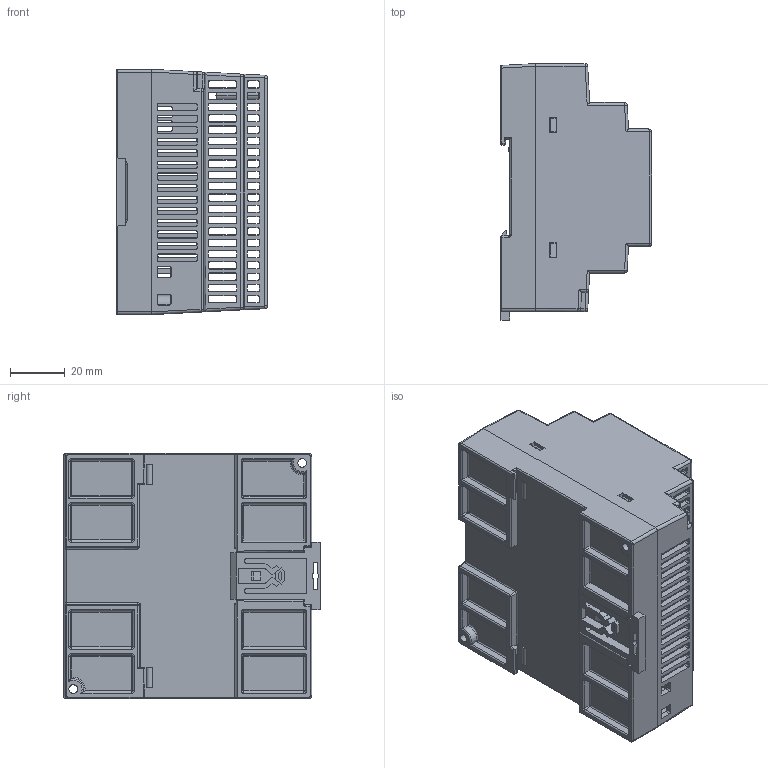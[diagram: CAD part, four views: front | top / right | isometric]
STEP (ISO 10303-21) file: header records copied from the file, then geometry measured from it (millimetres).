
FILE_DESCRIPTION((''),'2;1');
FILE_NAME('DRC-24V100W1AZ_ASM','2025-08-07T10:00:14',('EUNICE.HUANG'),(''),'CREO PARAMETRIC BY PTC INC, 2023294','CREO PARAMETRIC BY PTC INC, 2023294','');
FILE_SCHEMA(('CONFIG_CONTROL_DESIGN'));
Products named in the file (7): CHASSIS_4; COVER_3; 3421026502_4; LENS_2; LABEL_4; DRC-24V100W1AZ_ASM_4_ASM; DRC-24V100W1AZ_ASM
Assembly tree (6 placements, depth 3):
  DRC-24V100W1AZ_ASM
    DRC-24V100W1AZ_ASM_4_ASM
      CHASSIS_4
      COVER_3
      3421026502_4
      LENS_2
      LABEL_4
Bounding box: 55.5 x 94.15 x 90 mm (x, y, z)
Volume: 63295.8 mm3; surface area: 77237.9 mm2
Topology: 5 solids, 5 shells, 2774 faces, 7724 edges, 4999 vertices
Faces by surface type: plane 1419, cylinder 793, extrusion 381, sphere 62, cone 58, bspline 52, torus 9
Entity records: 97314 total; most frequent: CARTESIAN_POINT 29588, ORIENTED_EDGE 15324, DIRECTION 11386, EDGE_CURVE 7662, VECTOR 5382, LINE 5001, VERTEX_POINT 4999, EDGE_LOOP 3139
